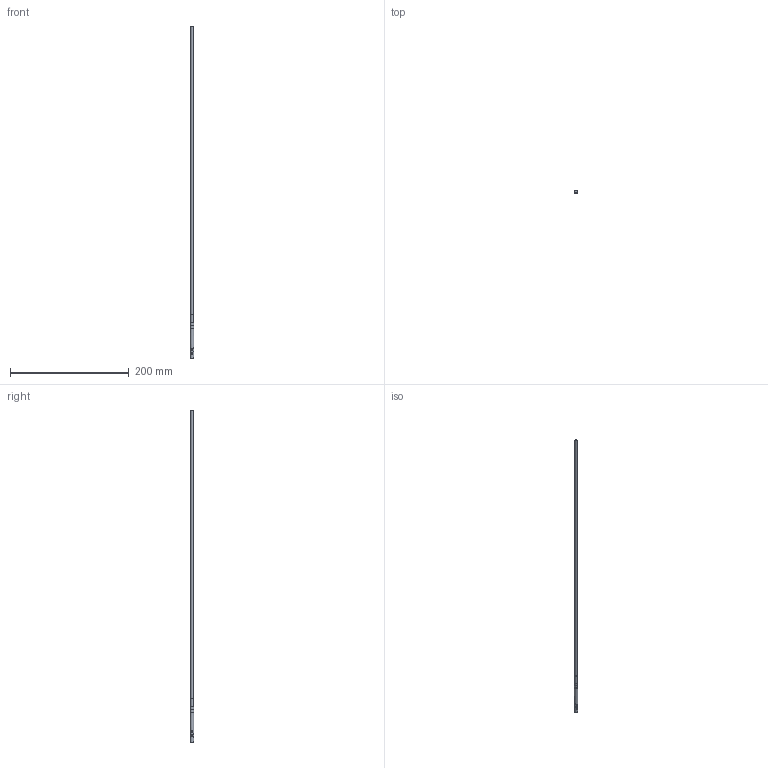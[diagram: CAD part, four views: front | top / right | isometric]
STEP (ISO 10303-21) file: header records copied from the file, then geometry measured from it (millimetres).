
FILE_DESCRIPTION( ( 'Unknown' ), '1' );
FILE_NAME( 'F:/U_Proces/dokumentation new/Mechanical parts/7000 3D Step filer/7000-/7000211/8141-353.0500.stp', 'Unknown', ( 'Unknown' ), ( 'Unknown' ), 'PSStep 13.0', 'Unknown', ' ' );
FILE_SCHEMA( ( 'AUTOMOTIVE_DESIGN { 1 0 10303 214 1 1 1 1 }' ) );
Length unit declared in the file: millimetre
Products named in the file (1): 3031022
Bounding box: 5.8 x 5.8 x 559 mm (x, y, z)
Surface area: 8344 mm2 (no closed solid volume)
Topology: 0 solids, 27 shells, 27 faces, 104 edges, 79 vertices
Faces by surface type: cylinder 15, plane 6, torus 6
Full cylindrical faces by diameter (mm): 3.2 x9, 4 x1, 4.5 x1, 5.2 x1, 5.8 x3
Entity records: 2750 total; most frequent: CARTESIAN_POINT 1860, DIRECTION 128, FACE_BOUND 68, EDGE_LOOP 68, ORIENTED_EDGE 68, EDGE_CURVE 68, VERTEX_POINT 68, AXIS2_PLACEMENT_3D 64
